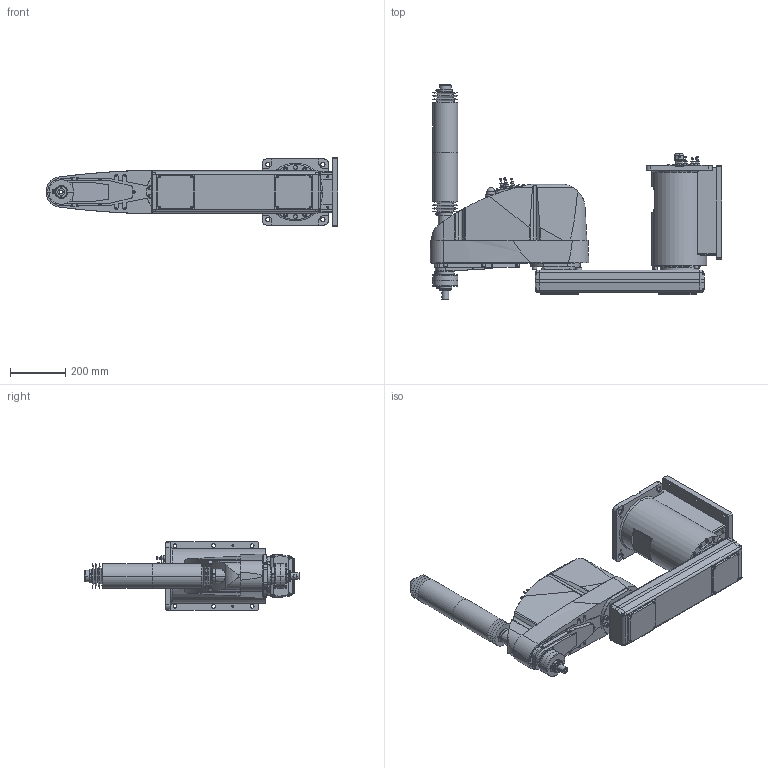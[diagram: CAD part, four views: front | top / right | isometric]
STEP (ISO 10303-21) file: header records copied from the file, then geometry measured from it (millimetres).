
FILE_DESCRIPTION( ( '' ), '1' );
FILE_NAME( '//expscmdclustefs.cadenas.external/client_exchange/iodir/jobs/output/wkb51507128_no0/STEP/G20_854DW_2_14b.stp', '2012-11-22T13:53:23', ( '' ), ( '' ), ' ', ' ', ' ' );
FILE_SCHEMA( ( 'automotive_design' ) );
Length unit declared in the file: millimetre
Products named in the file (8): 1; 2; 3; 4; 5; 6; 7; 8
Bounding box: 1060.5 x 777.5 x 250 mm (x, y, z)
Volume: 44899679.1 mm3; surface area: 1841646.9 mm2
Topology: 8 solids, 8 shells, 2143 faces, 5150 edges, 3308 vertices
Faces by surface type: plane 1091, cylinder 732, cone 292, torus 27, sphere 1
Entity records: 123576 total; most frequent: CARTESIAN_POINT 12702, DIRECTION 11122, STYLED_ITEM 10593, PRESENTATION_STYLE_ASSIGNMENT 10593, COLOUR_RGB 10593, ORIENTED_EDGE 10268, EDGE_CURVE 5134, CURVE_STYLE 5134
